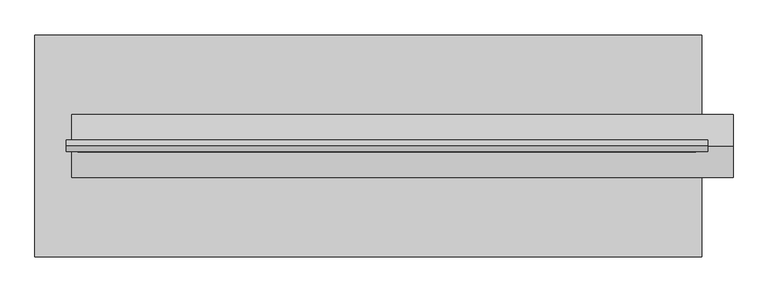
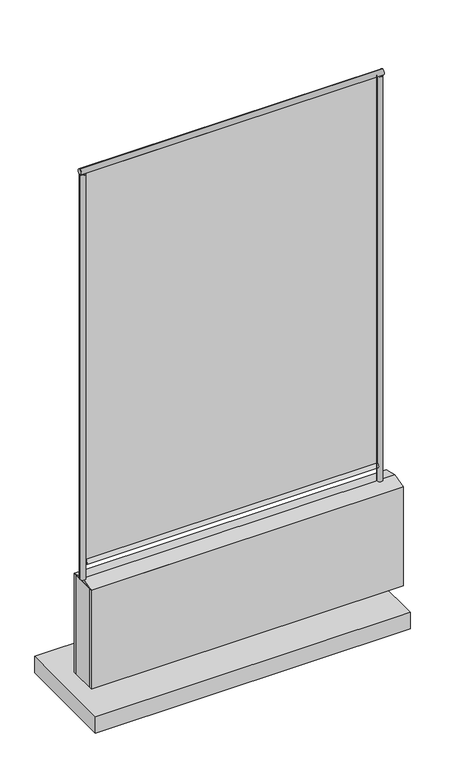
"""IFC4 building model written with IfcOpenShell, lengths in millimetres: plate geometry, FDE_FQ01_FechamentoParaQuadradeEsportes : FQ01_LateraisSapata."""

from ifc_helpers import new_model, si_unit, point, frame, frame_2d, origin, place, context, project, spatial, polyline, circle_curve, trimmed, segment, composite_curve, outline, extrude, source, transform, mapped, element, save


def plate_8037e2f8(model_context):
    return source(origin(), model_context, "Body", "SweptSolid", [
        extrude(outline(composite_curve([segment(trimmed(circle_curve(frame_2d((-849.9999998, 0.0)), 16.0), [point((-865.9999998, 0.0))], [point((-833.9999998, 0.0))], False, "CARTESIAN"), True, "CONTINUOUS"), segment(trimmed(circle_curve(frame_2d((-849.9999998, 0.0)), 16.0), [point((-833.9999998, 0.0))], [point((-865.9999998, 0.0))], False, "CARTESIAN"), True, "CONTINUOUS")], self_intersect=False)), frame((0.0, 0.0, 920.0), z_axis=(0.0, 0.0, 1.0), x_axis=(1.0, 0.0, 0.0)), (0.0, 0.0, 1.0), 2448.0),
        extrude(outline(composite_curve([segment(trimmed(circle_curve(frame_2d((849.9999998, 0.0)), 16.0), [point((833.9999998, 0.0))], [point((865.9999998, 0.0))], False, "CARTESIAN"), True, "CONTINUOUS"), segment(trimmed(circle_curve(frame_2d((849.9999998, 0.0)), 16.0), [point((865.9999998, 0.0))], [point((833.9999998, 0.0))], False, "CARTESIAN"), True, "CONTINUOUS")], self_intersect=False)), frame((0.0, 0.0, 920.0), z_axis=(0.0, 0.0, 1.0), x_axis=(1.0, 0.0, 0.0)), (0.0, 0.0, 1.0), 2448.0),
        extrude(outline(polyline([(849.9999998, 300.0), (849.9999998, -300.0), (-949.9999998, -300.0), (-949.9999998, 300.0), (849.9999998, 300.0)])), frame((0.0, 0.0, 200.0), z_axis=(0.0, 0.0, 1.0), x_axis=(1.0, 0.0, 0.0)), (0.0, 0.0, 1.0), 100.0),
        extrude(outline(polyline([(85.0, 900.0), (-85.0, 900.0), (0.0, 920.0), (85.0, 900.0)])), frame((-849.9999998, 0.0, 0.0), z_axis=(1.0, 0.0, 0.0), x_axis=(0.0, 1.0, 0.0)), (0.0, 0.0, 1.0), 1784.9999997),
        extrude(outline(polyline([(-849.9999998, -85.0), (-849.9999998, -70.0), (934.9999998, -70.0), (934.9999998, -85.0), (-849.9999998, -85.0)])), frame((0.0, 0.0, 300.0), z_axis=(0.0, 0.0, 1.0), x_axis=(1.0, 0.0, 0.0)), (0.0, 0.0, 1.0), 600.0),
        extrude(outline(polyline([(-849.9999998, 70.0), (-849.9999998, 85.0), (934.9999998, 85.0), (934.9999998, 70.0), (-849.9999998, 70.0)])), frame((0.0, 0.0, 300.0), z_axis=(0.0, 0.0, 1.0), x_axis=(1.0, 0.0, 0.0)), (0.0, 0.0, 1.0), 600.0),
        extrude(outline(polyline([(934.9999998, 70.0), (934.9999998, -70.0), (-849.9999998, -70.0), (-849.9999998, 70.0), (934.9999998, 70.0)])), frame((0.0, 0.0, 300.0), z_axis=(0.0, 0.0, 1.0), x_axis=(1.0, 0.0, 0.0)), (0.0, 0.0, 1.0), 600.0),
        extrude(outline(polyline([(833.9999998, -5.0), (-833.9999998, -5.0), (-833.9999998, 5.0), (833.9999998, 5.0), (833.9999998, -5.0)])), frame((0.0, 0.0, 1032.0), z_axis=(0.0, 0.0, 1.0), x_axis=(1.0, 0.0, 0.0)), (0.0, 0.0, 1.0), 2336.0),
        extrude(outline(composite_curve([segment(trimmed(circle_curve(frame_2d((0.0, 1016.0)), 16.0), [point((0.0, 1032.0))], [point((0.0, 1000.0))], False, "CARTESIAN"), True, "CONTINUOUS"), segment(trimmed(circle_curve(frame_2d((0.0, 1016.0)), 16.0), [point((0.0, 1000.0))], [point((0.0, 1032.0))], False, "CARTESIAN"), True, "CONTINUOUS")], self_intersect=False)), frame((-833.9999998, 0.0, 0.0), z_axis=(1.0, 0.0, 0.0), x_axis=(0.0, 1.0, 0.0)), (0.0, 0.0, 1.0), 1667.9999997),
        extrude(outline(composite_curve([segment(trimmed(circle_curve(frame_2d((0.0, 3384.0)), 16.0), [point((0.0, 3368.0))], [point((0.0, 3400.0))], False, "CARTESIAN"), True, "CONTINUOUS"), segment(trimmed(circle_curve(frame_2d((0.0, 3384.0)), 16.0), [point((0.0, 3400.0))], [point((0.0, 3368.0))], False, "CARTESIAN"), True, "CONTINUOUS")], self_intersect=False)), frame((-865.9999998, 0.0, 0.0), z_axis=(1.0, 0.0, 0.0), x_axis=(0.0, 1.0, 0.0)), (0.0, 0.0, 1.0), 1731.9999997),
    ])


if __name__ == "__main__":
    model = new_model("IFC4")
    model_context = context("Model", 3, world=origin())
    ifc_project = project(units=[si_unit("LENGTHUNIT", "METRE", prefix="MILLI")], contexts=[model_context])
    site = spatial("IfcSite", under=ifc_project)
    building = spatial("IfcBuilding", under=site)
    placement = place(None, origin())
    plate_shape = plate_8037e2f8(model_context)
    element("IfcPlate", 1, ObjectType="FDE_FQ01_FechamentoParaQuadradeEsportes : FQ01_LateraisSapata", at=placement, inside=building, context=model_context, shape_type="MappedRepresentation", body=[
        mapped(plate_shape, transform((0.0, 0.0, 0.0), x_axis=(1.0, 0.0, 0.0), y_axis=(0.0, 1.0, 0.0), z_axis=(0.0, 0.0, 1.0))),
    ])
    save(model, "model.ifc")
